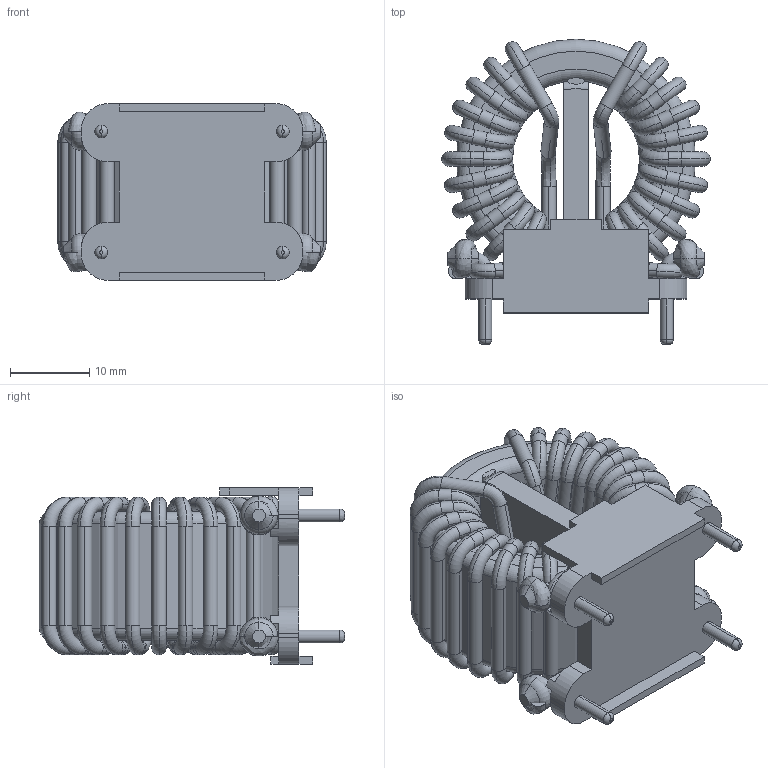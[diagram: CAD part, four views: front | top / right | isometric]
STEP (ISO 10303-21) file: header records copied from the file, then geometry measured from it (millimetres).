
FILE_DESCRIPTION (( 'STEP AP203' ), '1' );
FILE_NAME ('PM-16-581U-13A.STEP', '2021-01-22T14:42:35', ( '' ), ( '' ), 'SwSTEP 2.0', 'SolidWorks 2015', '' );
FILE_SCHEMA (( 'CONFIG_CONTROL_DESIGN' ));
Length unit declared in the file: millimetre
Products named in the file (6): SPACER; PM-16-581U-13A; WINDING; CORE; BASE; EPOXY
Assembly tree (5 placements, depth 2):
  PM-16-581U-13A
    BASE
    CORE
    SPACER
    WINDING
    EPOXY
Bounding box: 33.81 x 38.44 x 22.26 mm (x, y, z)
Volume: 12127.6 mm3; surface area: 12675.4 mm2
Topology: 13 solids, 13 shells, 622 faces, 1690 edges, 1094 vertices
Faces by surface type: cylinder 278, torus 218, plane 80, bspline 30, cone 16
Entity records: 24919 total; most frequent: CARTESIAN_POINT 7862, DIRECTION 3934, ORIENTED_EDGE 3380, AXIS2_PLACEMENT_3D 1746, EDGE_CURVE 1690, CIRCLE 1146, VERTEX_POINT 1094, EDGE_LOOP 632
